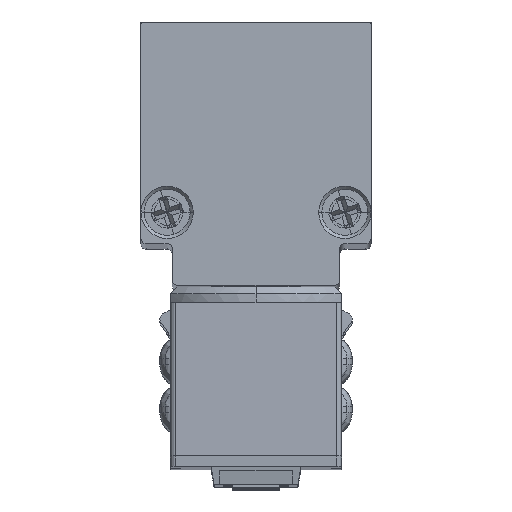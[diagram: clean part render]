
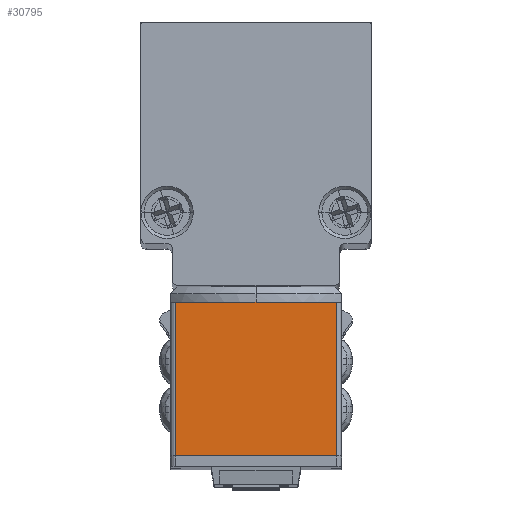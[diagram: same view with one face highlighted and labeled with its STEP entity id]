
A CAD part, top view. The second image highlights one B-rep face of the part: STEP entity #30795.
In plain terms, the highlighted planar face has unit normal (0, 0.002, 1) as drawn and (1, 0, -0.002) by its records, which use the part's own axes.
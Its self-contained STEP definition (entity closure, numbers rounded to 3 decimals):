
#1532 = CARTESIAN_POINT ( 'NONE',  ( 92.383, 7.683, -9.8 ) ) ;
#2527 = CARTESIAN_POINT ( 'NONE',  ( 92.4, 7.7, 0. ) ) ;
#5798 = EDGE_LOOP ( 'NONE', ( #74088, #49876, #10773, #62566 ) ) ;
#10773 = ORIENTED_EDGE ( 'NONE', *, *, #53748, .F. ) ;
#11954 = CARTESIAN_POINT ( 'NONE',  ( 92.374, 7.674, -14.7 ) ) ;
#12299 = DIRECTION ( 'NONE',  ( 0., -1., 0. ) ) ;
#12312 = CARTESIAN_POINT ( 'NONE',  ( 92.4, 10.438, -0.001 ) ) ;
#13107 = LINE ( 'NONE', #36834, #52873 ) ;
#15316 = CARTESIAN_POINT ( 'NONE',  ( 92.374, -7.674, -14.7 ) ) ;
#17392 = B_SPLINE_CURVE_WITH_KNOTS ( 'NONE', 3,
 ( #31076, #54730, #1532, #25229 ),
 .UNSPECIFIED., .F., .F.,
 ( 4, 4 ),
 ( 0., 1. ),
 .UNSPECIFIED. ) ;
#19384 = CARTESIAN_POINT ( 'NONE',  ( 92.4, 0., 0. ) ) ;
#20211 = CARTESIAN_POINT ( 'NONE',  ( 92.4, -7.7, 0. ) ) ;
#22350 = VERTEX_POINT ( 'NONE', #2527 ) ;
#23512 = VERTEX_POINT ( 'NONE', #15316 ) ;
#25229 = CARTESIAN_POINT ( 'NONE',  ( 92.374, 7.674, -14.7 ) ) ;
#30795 = ADVANCED_FACE ( 'NONE', ( #41864 ), #65497, .F. ) ;
#31076 = CARTESIAN_POINT ( 'NONE',  ( 92.4, 7.7, 0. ) ) ;
#35940 = VERTEX_POINT ( 'NONE', #11954 ) ;
#36035 = DIRECTION ( 'NONE',  ( -1., 0., 0.002 ) ) ;
#36834 = CARTESIAN_POINT ( 'NONE',  ( 92.374, -7.674, -14.7 ) ) ;
#36998 = VECTOR ( 'NONE', #43088, 1000. ) ;
#41855 = LINE ( 'NONE', #65489, #60854 ) ;
#41864 = FACE_OUTER_BOUND ( 'NONE', #5798, .T. ) ;
#43088 = DIRECTION ( 'NONE',  ( 0., -1., 0. ) ) ;
#49876 = ORIENTED_EDGE ( 'NONE', *, *, #76480, .F. ) ;
#50459 = VERTEX_POINT ( 'NONE', #20211 ) ;
#52873 = VECTOR ( 'NONE', #60472, 1000. ) ;
#53748 = EDGE_CURVE ( 'NONE', #35940, #23512, #41855, .T. ) ;
#54730 = CARTESIAN_POINT ( 'NONE',  ( 92.391, 7.691, -4.9 ) ) ;
#58510 = EDGE_CURVE ( 'NONE', #22350, #35940, #17392, .T. ) ;
#59621 = EDGE_CURVE ( 'NONE', #22350, #50459, #72551, .T. ) ;
#59658 = DIRECTION ( 'NONE',  ( 0.002, 0., 1. ) ) ;
#60472 = DIRECTION ( 'NONE',  ( 0.002, -0.002, 1. ) ) ;
#60854 = VECTOR ( 'NONE', #12299, 1000. ) ;
#62566 = ORIENTED_EDGE ( 'NONE', *, *, #58510, .F. ) ;
#65489 = CARTESIAN_POINT ( 'NONE',  ( 92.374, 10.438, -14.7 ) ) ;
#65497 = PLANE ( 'NONE',  #67549 ) ;
#67549 = AXIS2_PLACEMENT_3D ( 'NONE', #12312, #36035, #59658 ) ;
#72551 = LINE ( 'NONE', #19384, #36998 ) ;
#74088 = ORIENTED_EDGE ( 'NONE', *, *, #59621, .T. ) ;
#76480 = EDGE_CURVE ( 'NONE', #23512, #50459, #13107, .T. ) ;
